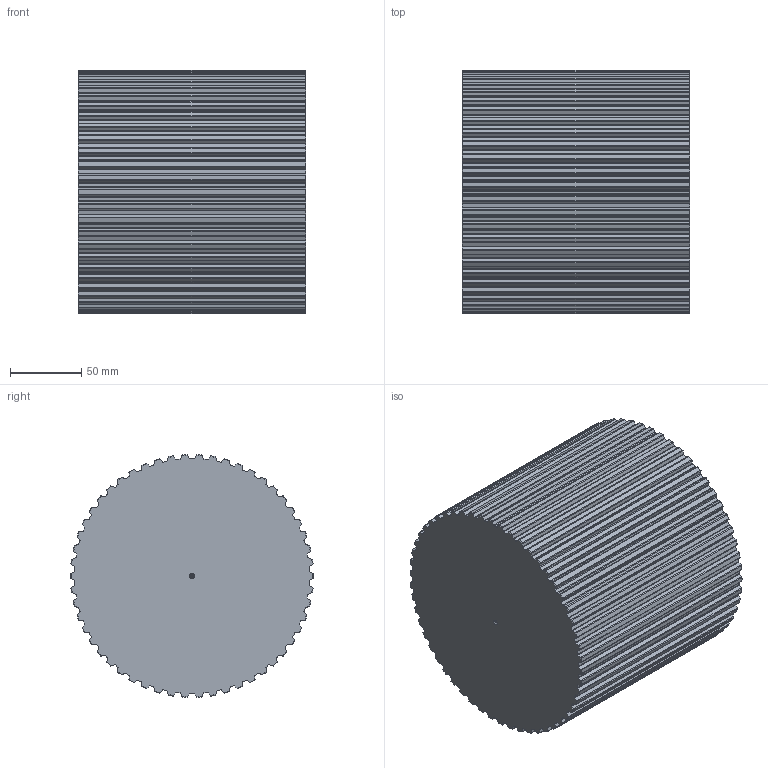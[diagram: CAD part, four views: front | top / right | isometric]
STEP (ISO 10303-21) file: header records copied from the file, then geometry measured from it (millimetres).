
FILE_DESCRIPTION(('STEP AP203'),'1');
FILE_NAME('barat_54.stp','2022-04-12T09:39:43',('TraceParts'),('TraceParts S.A.'),'Spatial InterOp 3D',' ',' ');
FILE_SCHEMA(('CONFIG_CONTROL_DESIGN'));
Length unit declared in the file: millimetre
Products named in the file (1): 1
Bounding box: 160 x 170.89 x 170.75 mm (x, y, z)
Volume: 3551634.7 mm3; surface area: 156869.4 mm2
Topology: 1 solids, 1 shells, 560 faces, 1666 edges, 1106 vertices
Faces by surface type: cylinder 330, cone 120, plane 110
Entity records: 20242 total; most frequent: CARTESIAN_POINT 5705, ORIENTED_EDGE 3324, DIRECTION 2916, EDGE_CURVE 1662, AXIS2_PLACEMENT_3D 1125, VERTEX_POINT 1106, LINE 666, VECTOR 666
